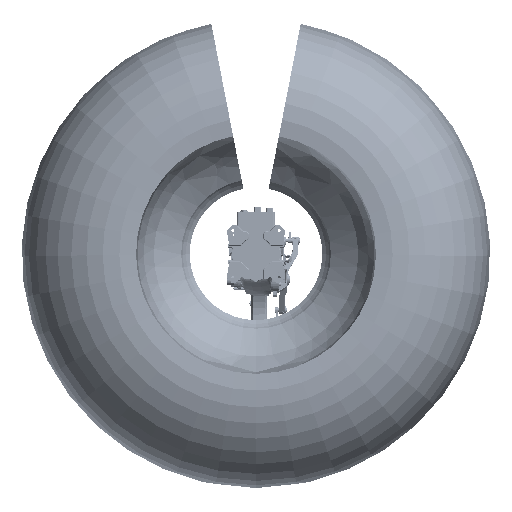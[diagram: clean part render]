
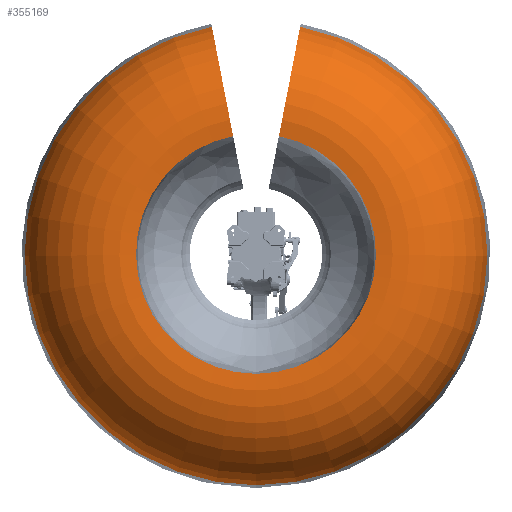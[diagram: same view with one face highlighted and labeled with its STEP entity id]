
A CAD part, front view. The second image highlights one B-rep face of the part: STEP entity #355169.
In plain terms, the highlighted toroidal (fillet/blend) face has major radius 880.885 mm and minor radius 620 mm.
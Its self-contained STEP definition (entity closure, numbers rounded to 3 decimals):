
#354989=CARTESIAN_POINT('',(-168.081,221.311,
864.7));
#354990=DIRECTION('',(-0.982,0.,-0.191));
#354991=DIRECTION('',(0.033,-0.985,-0.17));
#354992=AXIS2_PLACEMENT_3D('',#354989,#354990,#354991);
#355004=CARTESIAN_POINT('',(0.,113.649,0.));
#355005=DIRECTION('',(0.,-1.,0.));
#355006=DIRECTION('',(-0.191,0.,0.982));
#355007=AXIS2_PLACEMENT_3D('',#355004,#355005,#355006);
#355009=CARTESIAN_POINT('',(0.,-389.27,0.));
#355010=DIRECTION('',(0.,-1.,0.));
#355011=DIRECTION('',(-0.191,0.,0.982));
#355012=AXIS2_PLACEMENT_3D('',#355009,#355010,#355011);
#355039=CARTESIAN_POINT('',(168.081,221.311,
864.7));
#355040=DIRECTION('',(-0.982,0.,0.191));
#355041=DIRECTION('',(-0.033,-0.985,
-0.17));
#355042=AXIS2_PLACEMENT_3D('',#355039,#355040,#355041);
#355067=CARTESIAN_POINT('',(-147.538,-389.27,
759.017));
#355068=VERTEX_POINT('',#355067);
#355069=CARTESIAN_POINT('',(-284.585,113.649,
1464.063));
#355070=VERTEX_POINT('',#355069);
#355079=CARTESIAN_POINT('',(147.538,-389.27,
759.017));
#355080=VERTEX_POINT('',#355079);
#355081=CARTESIAN_POINT('',(284.585,113.649,
1464.063));
#355082=VERTEX_POINT('',#355081);
#355156=CARTESIAN_POINT('',(0.,221.311,0.));
#355157=DIRECTION('',(0.,-1.,0.));
#355158=DIRECTION('',(0.191,0.,-0.982));
#355159=AXIS2_PLACEMENT_3D('',#355156,#355157,#355158);
#355160=TOROIDAL_SURFACE('',#355159,880.885,620.);
#355161=ORIENTED_EDGE('',*,*,#355096,.F.);
#355163=ORIENTED_EDGE('',*,*,#355162,.T.);
#355165=ORIENTED_EDGE('',*,*,#355164,.T.);
#355166=ORIENTED_EDGE('',*,*,#355148,.F.);
#355167=EDGE_LOOP('',(#355161,#355163,#355165,#355166));
#355168=FACE_OUTER_BOUND('',#355167,.F.);
#355169=ADVANCED_FACE('',(#355168),#355160,.T.);
#354993=CIRCLE('',#354992,620.);
#355008=CIRCLE('',#355007,1491.465);
#355013=CIRCLE('',#355012,773.223);
#355043=CIRCLE('',#355042,620.);
#355096=EDGE_CURVE('',#355068,#355070,#354993,.T.);
#355148=EDGE_CURVE('',#355070,#355082,#355008,.T.);
#355162=EDGE_CURVE('',#355068,#355080,#355013,.T.);
#355164=EDGE_CURVE('',#355080,#355082,#355043,.T.);
